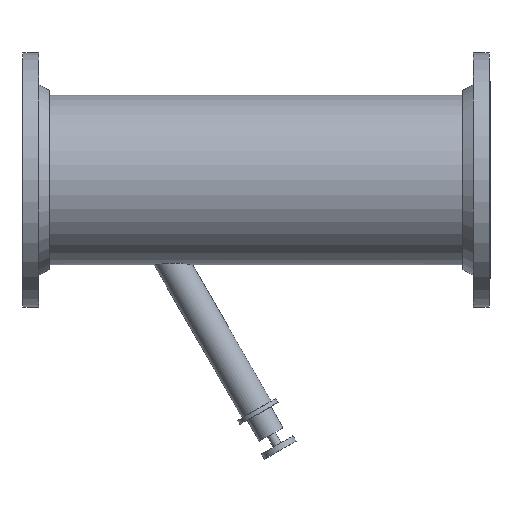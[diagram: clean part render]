
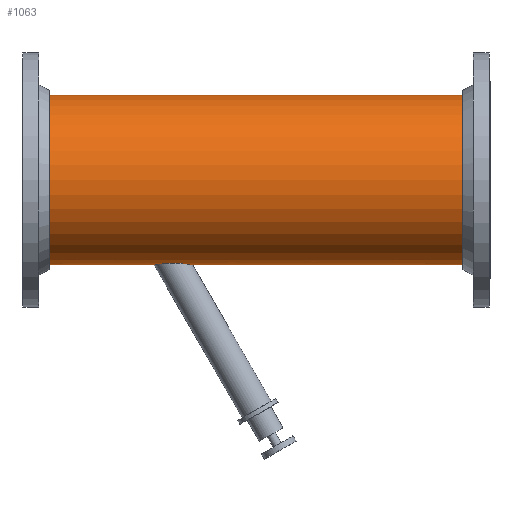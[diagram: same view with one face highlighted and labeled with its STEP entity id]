
A CAD part, top view. The second image highlights one B-rep face of the part: STEP entity #1063.
In plain terms, the highlighted cylindrical face has radius 177.8 mm (diameter 355.6 mm), a full revolution.
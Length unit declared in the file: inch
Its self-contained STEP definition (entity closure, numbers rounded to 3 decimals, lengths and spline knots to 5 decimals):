
#120=B_SPLINE_CURVE_WITH_KNOTS('',3,(#1673,#1674,#1675,#1676,#1677,#1678,
#1679,#1680,#1681,#1682,#1683,#1684,#1685,#1686,#1687,#1688,#1689,#1690,
#1691,#1692,#1693,#1694,#1695,#1696,#1697,#1698,#1699,#1700,#1701,#1702,
#1703,#1704,#1705,#1706),.UNSPECIFIED.,.F.,.F.,(4,2,2,2,2,2,2,2,2,2,2,2,
2,2,2,2,4),(5.82891,6.48823,7.14755,7.80686,
8.46618,9.26409,10.062,10.85992,11.65783,
12.39553,13.13324,13.87094,14.60865,15.26029,
15.91193,16.56358,17.21522),.UNSPECIFIED.);
#121=B_SPLINE_CURVE_WITH_KNOTS('',3,(#1713,#1714,#1715,#1716,#1717,#1718,
#1719,#1720,#1721,#1722,#1723,#1724,#1725,#1726,#1727,#1728,#1729,#1730),
 .UNSPECIFIED.,.F.,.F.,(4,2,2,2,2,2,2,2,4),(17.21522,17.86686,
18.5185,19.17014,19.82179,20.55949,21.2972,
22.0349,22.77261),.UNSPECIFIED.);
#122=B_SPLINE_CURVE_WITH_KNOTS('',3,(#1731,#1732,#1733,#1734,#1735,#1736,
#1737,#1738,#1739,#1740,#1741,#1742,#1743,#1744,#1745,#1746,#1747,#1748),
 .UNSPECIFIED.,.F.,.F.,(4,2,2,2,2,2,2,2,4),(0.,0.79791,1.59583,
2.39374,3.19165,3.85097,4.51028,5.1696,
5.82891),.UNSPECIFIED.);
#124=FACE_OUTER_BOUND('',#174,.T.);
#174=EDGE_LOOP('',(#703,#704,#705,#706,#707,#708,#709,#710,#711,#712,#713));
#284=LINE('',#1671,#322);
#285=LINE('',#1708,#323);
#322=VECTOR('',#1310,7.);
#323=VECTOR('',#1311,7.);
#363=CIRCLE('',#1138,7.);
#364=CIRCLE('',#1139,7.);
#365=CIRCLE('',#1140,7.);
#366=CIRCLE('',#1141,7.);
#461=VERTEX_POINT('',#1667);
#462=VERTEX_POINT('',#1668);
#463=VERTEX_POINT('',#1670);
#464=VERTEX_POINT('',#1672);
#465=VERTEX_POINT('',#1707);
#466=VERTEX_POINT('',#1709);
#467=VERTEX_POINT('',#1712);
#563=EDGE_CURVE('',#461,#462,#363,.T.);
#564=EDGE_CURVE('',#462,#463,#284,.T.);
#565=EDGE_CURVE('',#463,#464,#120,.T.);
#566=EDGE_CURVE('',#464,#465,#285,.T.);
#567=EDGE_CURVE('',#465,#466,#364,.T.);
#568=EDGE_CURVE('',#466,#465,#365,.T.);
#569=EDGE_CURVE('',#464,#467,#121,.T.);
#570=EDGE_CURVE('',#467,#463,#122,.T.);
#571=EDGE_CURVE('',#462,#461,#366,.T.);
#703=ORIENTED_EDGE('',*,*,#563,.T.);
#704=ORIENTED_EDGE('',*,*,#564,.T.);
#705=ORIENTED_EDGE('',*,*,#565,.T.);
#706=ORIENTED_EDGE('',*,*,#566,.T.);
#707=ORIENTED_EDGE('',*,*,#567,.T.);
#708=ORIENTED_EDGE('',*,*,#568,.T.);
#709=ORIENTED_EDGE('',*,*,#566,.F.);
#710=ORIENTED_EDGE('',*,*,#569,.T.);
#711=ORIENTED_EDGE('',*,*,#570,.T.);
#712=ORIENTED_EDGE('',*,*,#564,.F.);
#713=ORIENTED_EDGE('',*,*,#571,.T.);
#976=CYLINDRICAL_SURFACE('',#1137,7.);
#1063=ADVANCED_FACE('',(#124),#976,.T.);
#1137=AXIS2_PLACEMENT_3D('',#1666,#1306,#1307);
#1138=AXIS2_PLACEMENT_3D('',#1669,#1308,#1309);
#1139=AXIS2_PLACEMENT_3D('',#1710,#1312,#1313);
#1140=AXIS2_PLACEMENT_3D('',#1711,#1314,#1315);
#1141=AXIS2_PLACEMENT_3D('',#1749,#1316,#1317);
#1306=DIRECTION('center_axis',(1.,0.,0.));
#1307=DIRECTION('ref_axis',(0.,1.,0.));
#1308=DIRECTION('center_axis',(-1.,0.,0.));
#1309=DIRECTION('ref_axis',(0.,1.,0.));
#1310=DIRECTION('',(-1.,0.,0.));
#1311=DIRECTION('',(-1.,0.,0.));
#1312=DIRECTION('center_axis',(1.,0.,0.));
#1313=DIRECTION('ref_axis',(0.,1.,0.));
#1314=DIRECTION('center_axis',(1.,0.,0.));
#1315=DIRECTION('ref_axis',(0.,1.,0.));
#1316=DIRECTION('center_axis',(-1.,0.,0.));
#1317=DIRECTION('ref_axis',(0.,1.,0.));
#1666=CARTESIAN_POINT('Origin',(0.,0.,0.));
#1667=CARTESIAN_POINT('',(17.04,7.,0.));
#1668=CARTESIAN_POINT('',(17.04,-7.,0.));
#1669=CARTESIAN_POINT('Origin',(17.04,0.,0.));
#1670=CARTESIAN_POINT('',(-5.2342,-7.,0.));
#1671=CARTESIAN_POINT('',(0.,-7.,0.));
#1672=CARTESIAN_POINT('',(-8.40963,-7.,0.));
#1673=CARTESIAN_POINT('Ctrl Pts',(-5.2342,-7.,0.));
#1674=CARTESIAN_POINT('Ctrl Pts',(-5.2342,-7.,-0.08652));
#1675=CARTESIAN_POINT('Ctrl Pts',(-5.24474,-6.99835,-0.17497));
#1676=CARTESIAN_POINT('Ctrl Pts',(-5.28746,-6.99184,-0.34888));
#1677=CARTESIAN_POINT('Ctrl Pts',(-5.31963,-6.98698,-0.43434));
#1678=CARTESIAN_POINT('Ctrl Pts',(-5.40224,-6.97501,-0.59648));
#1679=CARTESIAN_POINT('Ctrl Pts',(-5.45275,-6.9679,-0.67333));
#1680=CARTESIAN_POINT('Ctrl Pts',(-5.56617,-6.95283,-0.81433));
#1681=CARTESIAN_POINT('Ctrl Pts',(-5.62908,-6.94489,-0.8785));
#1682=CARTESIAN_POINT('Ctrl Pts',(-5.77277,-6.92803,-1.00356));
#1683=CARTESIAN_POINT('Ctrl Pts',(-5.86083,-6.9185,-1.0665));
#1684=CARTESIAN_POINT('Ctrl Pts',(-6.05038,-6.90063,-1.17659));
#1685=CARTESIAN_POINT('Ctrl Pts',(-6.15187,-6.89231,-1.22376));
#1686=CARTESIAN_POINT('Ctrl Pts',(-6.36179,-6.87842,-1.29953));
#1687=CARTESIAN_POINT('Ctrl Pts',(-6.47034,-6.87287,-1.32816));
#1688=CARTESIAN_POINT('Ctrl Pts',(-6.6874,-6.86547,-1.36591));
#1689=CARTESIAN_POINT('Ctrl Pts',(-6.79593,-6.86363,-1.375));
#1690=CARTESIAN_POINT('Ctrl Pts',(-6.99746,-6.86363,-1.375));
#1691=CARTESIAN_POINT('Ctrl Pts',(-7.09803,-6.8652,-1.36721));
#1692=CARTESIAN_POINT('Ctrl Pts',(-7.29876,-6.87192,-1.33305));
#1693=CARTESIAN_POINT('Ctrl Pts',(-7.39892,-6.87706,-1.30666));
#1694=CARTESIAN_POINT('Ctrl Pts',(-7.59138,-6.89027,-1.23509));
#1695=CARTESIAN_POINT('Ctrl Pts',(-7.68384,-6.89835,-1.18985));
#1696=CARTESIAN_POINT('Ctrl Pts',(-7.85481,-6.91593,-1.08301));
#1697=CARTESIAN_POINT('Ctrl Pts',(-7.93331,-6.92541,-1.02141));
#1698=CARTESIAN_POINT('Ctrl Pts',(-8.06378,-6.94278,-0.89523));
#1699=CARTESIAN_POINT('Ctrl Pts',(-8.1215,-6.95122,-0.8282));
#1700=CARTESIAN_POINT('Ctrl Pts',(-8.22345,-6.96712,-0.6817));
#1701=CARTESIAN_POINT('Ctrl Pts',(-8.2677,-6.97454,-0.60223));
#1702=CARTESIAN_POINT('Ctrl Pts',(-8.33883,-6.98691,-0.43597));
#1703=CARTESIAN_POINT('Ctrl Pts',(-8.36579,-6.99184,-0.34903));
#1704=CARTESIAN_POINT('Ctrl Pts',(-8.40119,-6.99839,-0.1738));
#1705=CARTESIAN_POINT('Ctrl Pts',(-8.40963,-7.,-0.08552));
#1706=CARTESIAN_POINT('Ctrl Pts',(-8.40963,-7.,0.));
#1707=CARTESIAN_POINT('',(-17.04,-7.,0.));
#1708=CARTESIAN_POINT('',(0.,-7.,0.));
#1709=CARTESIAN_POINT('',(-17.04,7.,0.));
#1710=CARTESIAN_POINT('Origin',(-17.04,0.,0.));
#1711=CARTESIAN_POINT('Origin',(-17.04,0.,0.));
#1712=CARTESIAN_POINT('',(-6.90065,-6.86363,1.375));
#1713=CARTESIAN_POINT('Ctrl Pts',(-8.40963,-7.,0.));
#1714=CARTESIAN_POINT('Ctrl Pts',(-8.40963,-7.,0.08552));
#1715=CARTESIAN_POINT('Ctrl Pts',(-8.40119,-6.99839,0.1738));
#1716=CARTESIAN_POINT('Ctrl Pts',(-8.36579,-6.99184,0.34903));
#1717=CARTESIAN_POINT('Ctrl Pts',(-8.33883,-6.98691,0.43597));
#1718=CARTESIAN_POINT('Ctrl Pts',(-8.2677,-6.97454,0.60223));
#1719=CARTESIAN_POINT('Ctrl Pts',(-8.22345,-6.96712,0.6817));
#1720=CARTESIAN_POINT('Ctrl Pts',(-8.1215,-6.95122,0.8282));
#1721=CARTESIAN_POINT('Ctrl Pts',(-8.06378,-6.94278,0.89523));
#1722=CARTESIAN_POINT('Ctrl Pts',(-7.93331,-6.92541,1.02141));
#1723=CARTESIAN_POINT('Ctrl Pts',(-7.85481,-6.91593,1.08301));
#1724=CARTESIAN_POINT('Ctrl Pts',(-7.68384,-6.89835,1.18985));
#1725=CARTESIAN_POINT('Ctrl Pts',(-7.59138,-6.89027,1.23509));
#1726=CARTESIAN_POINT('Ctrl Pts',(-7.39892,-6.87706,1.30666));
#1727=CARTESIAN_POINT('Ctrl Pts',(-7.29876,-6.87192,1.33305));
#1728=CARTESIAN_POINT('Ctrl Pts',(-7.09803,-6.8652,1.36721));
#1729=CARTESIAN_POINT('Ctrl Pts',(-6.99746,-6.86363,1.375));
#1730=CARTESIAN_POINT('Ctrl Pts',(-6.90065,-6.86363,1.375));
#1731=CARTESIAN_POINT('Ctrl Pts',(-6.90065,-6.86363,1.375));
#1732=CARTESIAN_POINT('Ctrl Pts',(-6.79593,-6.86363,1.375));
#1733=CARTESIAN_POINT('Ctrl Pts',(-6.6874,-6.86547,1.36591));
#1734=CARTESIAN_POINT('Ctrl Pts',(-6.47034,-6.87287,1.32816));
#1735=CARTESIAN_POINT('Ctrl Pts',(-6.36179,-6.87842,1.29953));
#1736=CARTESIAN_POINT('Ctrl Pts',(-6.15187,-6.89231,1.22376));
#1737=CARTESIAN_POINT('Ctrl Pts',(-6.05038,-6.90063,1.17659));
#1738=CARTESIAN_POINT('Ctrl Pts',(-5.86083,-6.9185,1.0665));
#1739=CARTESIAN_POINT('Ctrl Pts',(-5.77277,-6.92803,1.00356));
#1740=CARTESIAN_POINT('Ctrl Pts',(-5.62908,-6.94489,0.8785));
#1741=CARTESIAN_POINT('Ctrl Pts',(-5.56617,-6.95283,0.81433));
#1742=CARTESIAN_POINT('Ctrl Pts',(-5.45275,-6.9679,0.67333));
#1743=CARTESIAN_POINT('Ctrl Pts',(-5.40224,-6.97501,0.59648));
#1744=CARTESIAN_POINT('Ctrl Pts',(-5.31963,-6.98698,0.43434));
#1745=CARTESIAN_POINT('Ctrl Pts',(-5.28746,-6.99184,0.34888));
#1746=CARTESIAN_POINT('Ctrl Pts',(-5.24474,-6.99835,0.17497));
#1747=CARTESIAN_POINT('Ctrl Pts',(-5.2342,-7.,0.08652));
#1748=CARTESIAN_POINT('Ctrl Pts',(-5.2342,-7.,0.));
#1749=CARTESIAN_POINT('Origin',(17.04,0.,0.));
